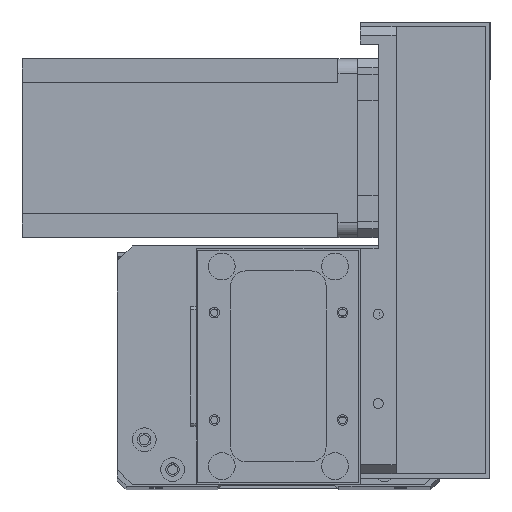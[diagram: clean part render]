
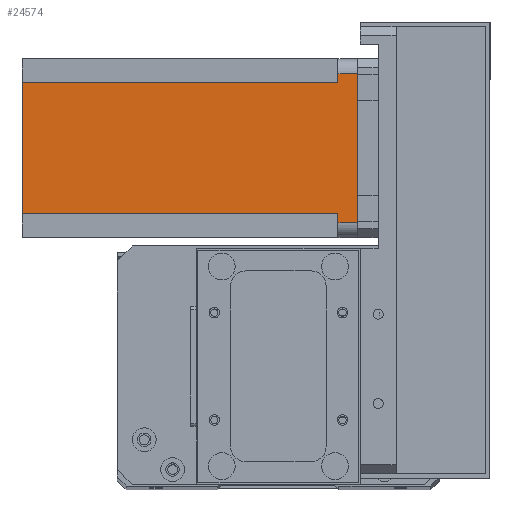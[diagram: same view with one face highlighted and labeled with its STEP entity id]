
A CAD part, top view. The second image highlights one B-rep face of the part: STEP entity #24574.
In plain terms, the highlighted planar face has unit normal (0, 0, 1) as drawn and (0, 1, 0) by its records, which use the part's own axes.
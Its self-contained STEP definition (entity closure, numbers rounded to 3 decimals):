
#155 = CARTESIAN_POINT ( 'NONE',  ( 0., 60., 0. ) ) ;
#545 = LINE ( 'NONE', #155, #24037 ) ;
#906 = CARTESIAN_POINT ( 'NONE',  ( 8., 60., -112.5 ) ) ;
#2049 = FACE_OUTER_BOUND ( 'NONE', #6212, .T. ) ;
#2254 = LINE ( 'NONE', #20423, #19685 ) ;
#4223 = CARTESIAN_POINT ( 'NONE',  ( 52., 60., -6.5 ) ) ;
#4599 = VECTOR ( 'NONE', #11229, 1000. ) ;
#4823 = VECTOR ( 'NONE', #10882, 1000. ) ;
#4895 = ORIENTED_EDGE ( 'NONE', *, *, #12343, .F. ) ;
#5425 = DIRECTION ( 'NONE',  ( 0., 0., 1. ) ) ;
#5586 = ORIENTED_EDGE ( 'NONE', *, *, #15011, .T. ) ;
#5938 = VERTEX_POINT ( 'NONE', #17080 ) ;
#6212 = EDGE_LOOP ( 'NONE', ( #18956, #7318, #26089, #21376, #8998, #4895, #5586, #12871 ) ) ;
#7063 = VECTOR ( 'NONE', #16777, 1000. ) ;
#7207 = DIRECTION ( 'NONE',  ( 0., 0., -1. ) ) ;
#7318 = ORIENTED_EDGE ( 'NONE', *, *, #13350, .T. ) ;
#8267 = VERTEX_POINT ( 'NONE', #13538 ) ;
#8998 = ORIENTED_EDGE ( 'NONE', *, *, #17126, .T. ) ;
#10192 = DIRECTION ( 'NONE',  ( 0., 1., 0. ) ) ;
#10760 = CARTESIAN_POINT ( 'NONE',  ( 52., 60., -6.5 ) ) ;
#10882 = DIRECTION ( 'NONE',  ( 0., 0., 1. ) ) ;
#11229 = DIRECTION ( 'NONE',  ( -1., 0., 0. ) ) ;
#11255 = VECTOR ( 'NONE', #5425, 1000. ) ;
#11369 = LINE ( 'NONE', #22456, #4599 ) ;
#11781 = VECTOR ( 'NONE', #17807, 1000. ) ;
#12343 = EDGE_CURVE ( 'NONE', #24507, #23605, #17711, .T. ) ;
#12635 = CARTESIAN_POINT ( 'NONE',  ( 55., 60., -6.5 ) ) ;
#12802 = CARTESIAN_POINT ( 'NONE',  ( 5., 60., -6.5 ) ) ;
#12871 = ORIENTED_EDGE ( 'NONE', *, *, #19225, .T. ) ;
#13350 = EDGE_CURVE ( 'NONE', #5938, #28318, #22296, .T. ) ;
#13538 = CARTESIAN_POINT ( 'NONE',  ( 5., 60., 0. ) ) ;
#15011 = EDGE_CURVE ( 'NONE', #24507, #17520, #2254, .T. ) ;
#16019 = DIRECTION ( 'NONE',  ( -1., 0., 0. ) ) ;
#16608 = CARTESIAN_POINT ( 'NONE',  ( 8., 60., -6.5 ) ) ;
#16625 = CARTESIAN_POINT ( 'NONE',  ( 52., 60., -112.5 ) ) ;
#16777 = DIRECTION ( 'NONE',  ( 0., 0., -1. ) ) ;
#17080 = CARTESIAN_POINT ( 'NONE',  ( 55., 60., 0. ) ) ;
#17126 = EDGE_CURVE ( 'NONE', #26159, #23605, #11369, .T. ) ;
#17282 = LINE ( 'NONE', #16625, #11255 ) ;
#17520 = VERTEX_POINT ( 'NONE', #12802 ) ;
#17711 = LINE ( 'NONE', #906, #7063 ) ;
#17714 = CARTESIAN_POINT ( 'NONE',  ( 5., 60., -112.5 ) ) ;
#17807 = DIRECTION ( 'NONE',  ( 1., 0., 0. ) ) ;
#18956 = ORIENTED_EDGE ( 'NONE', *, *, #26101, .F. ) ;
#18995 = EDGE_CURVE ( 'NONE', #26159, #24761, #17282, .T. ) ;
#19091 = CARTESIAN_POINT ( 'NONE',  ( 0., 60., -112.5 ) ) ;
#19225 = EDGE_CURVE ( 'NONE', #17520, #8267, #22969, .T. ) ;
#19685 = VECTOR ( 'NONE', #27208, 1000. ) ;
#20423 = CARTESIAN_POINT ( 'NONE',  ( 8., 60., -6.5 ) ) ;
#20854 = VECTOR ( 'NONE', #7207, 1000. ) ;
#21376 = ORIENTED_EDGE ( 'NONE', *, *, #18995, .F. ) ;
#21495 = PLANE ( 'NONE',  #28968 ) ;
#21848 = CARTESIAN_POINT ( 'NONE',  ( 8., 60., -112.5 ) ) ;
#22296 = LINE ( 'NONE', #25317, #20854 ) ;
#22409 = EDGE_CURVE ( 'NONE', #24761, #28318, #23866, .T. ) ;
#22456 = CARTESIAN_POINT ( 'NONE',  ( 0., 60., -112.5 ) ) ;
#22969 = LINE ( 'NONE', #17714, #4823 ) ;
#23090 = CARTESIAN_POINT ( 'NONE',  ( 52., 60., -112.5 ) ) ;
#23605 = VERTEX_POINT ( 'NONE', #21848 ) ;
#23866 = LINE ( 'NONE', #4223, #11781 ) ;
#24037 = VECTOR ( 'NONE', #16019, 1000. ) ;
#24507 = VERTEX_POINT ( 'NONE', #16608 ) ;
#24574 = ADVANCED_FACE ( 'NONE', ( #2049 ), #21495, .T. ) ;
#24761 = VERTEX_POINT ( 'NONE', #10760 ) ;
#25317 = CARTESIAN_POINT ( 'NONE',  ( 55., 60., -112.5 ) ) ;
#26088 = DIRECTION ( 'NONE',  ( 0., 0., 1. ) ) ;
#26089 = ORIENTED_EDGE ( 'NONE', *, *, #22409, .F. ) ;
#26101 = EDGE_CURVE ( 'NONE', #5938, #8267, #545, .T. ) ;
#26159 = VERTEX_POINT ( 'NONE', #23090 ) ;
#27208 = DIRECTION ( 'NONE',  ( -1., 0., 0. ) ) ;
#28318 = VERTEX_POINT ( 'NONE', #12635 ) ;
#28968 = AXIS2_PLACEMENT_3D ( 'NONE', #19091, #10192, #26088 ) ;
